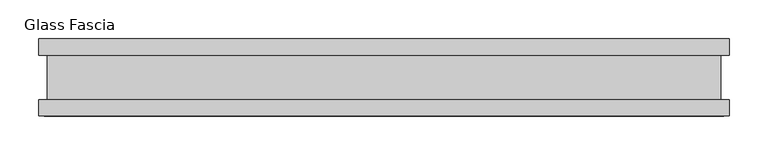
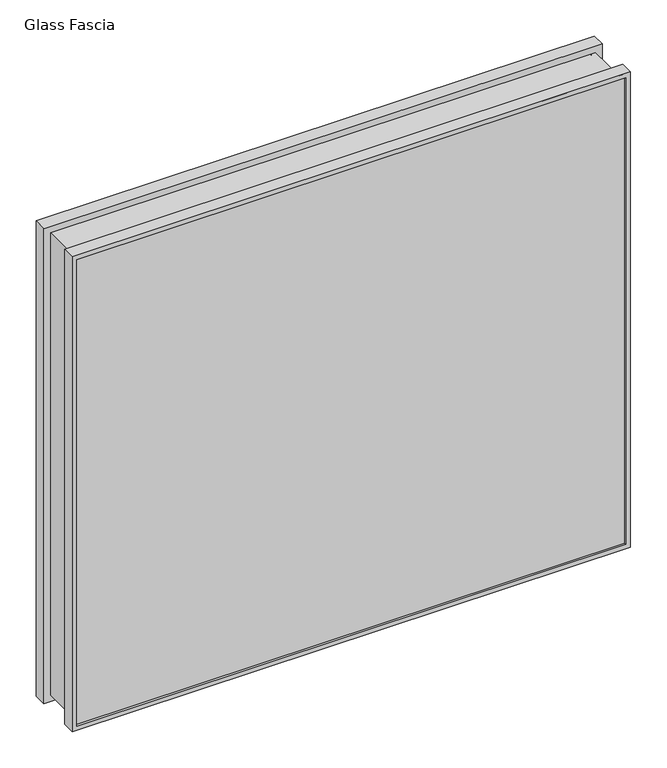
"""IFC4 building model written with IfcOpenShell, lengths in millimetres: proxy geometry, Panel-Fascia-Teknion-Altos-Glass : Glass Fascia."""

from ifc_helpers import new_model, si_unit, frame, origin, place, context, project, spatial, polyline, ellipse_curve, outline, extrude, source, transform, mapped, element, save
from ifc_brep_helpers import plane_surface, cylinder_surface, advanced_brep


def glass_fascia_d2a417b3(model_context):
    return source(origin(), model_context, "Body", "SolidModel", [
        advanced_brep(
        [(447.0670757, 50.0558594, 807.593), (447.0670757, 28.2698798, 807.593), (447.0670757, 28.2698798, 3.175), (447.0670757, 50.0558594, 3.175), (439.6318679, 47.1322551, 800.1577922), (439.6318679, 50.0558594, 800.1577922), (439.6318679, 50.0558594, 10.6102078), (439.6318679, 47.1322551, 10.6102078), (444.9145495, 41.1791301, 805.4404737), (444.9145495, 47.1322551, 805.4404737), (444.9145495, 47.1322551, 5.3275263), (444.9145495, 41.1791301, 5.3275263), (439.1096603, -40.9277344, 799.6355845), (439.1096603, 41.1791301, 799.6355845), (439.1096603, 41.1791301, 11.1324155), (439.1096603, -40.9277344, 11.1324155), (444.9145495, -46.8808594, 805.4404737), (444.9145495, -40.9277344, 805.4404737), (444.9145495, -40.9277344, 5.3275263), (444.9145495, -46.8808594, 5.3275263), (439.6318679, -50.0558594, 800.1577922), (439.6318679, -46.8808594, 800.1577922), (439.6318679, -46.8808594, 10.6102078), (439.6318679, -50.0558594, 10.6102078), (447.0670757, -28.8801202, 807.593), (447.0670757, -50.0558594, 807.593), (447.0670757, -50.0558594, 3.175), (447.0670757, -28.8801202, 3.175), (436.2152344, 28.2698798, 796.7411586), (436.2152344, -28.8801202, 796.7411586), (436.2152344, -28.8801202, 14.0268414), (436.2152344, 28.2698798, 14.0268414), (-447.0670757, 28.2698798, 3.175), (-447.0670757, 50.0558594, 3.175), (-439.6318679, 50.0558594, 10.6102078), (-439.6318679, 47.1322551, 10.6102078), (-444.9145495, 47.1322551, 5.3275263), (-444.9145495, 41.1791301, 5.3275263), (-439.1096603, 41.1791301, 11.1324155), (-439.1096603, -40.9277344, 11.1324155), (-444.9145495, -40.9277344, 5.3275263), (-444.9145495, -46.8808594, 5.3275263), (-439.6318679, -46.8808594, 10.6102078), (-439.6318679, -50.0558594, 10.6102078), (-447.0670757, -50.0558594, 3.175), (-447.0670757, -28.8801202, 3.175), (-436.2152344, -28.8801202, 14.0268414), (-436.2152344, 28.2698798, 14.0268414), (-447.0670757, 28.2698798, 807.593), (-447.0670757, 50.0558594, 807.593), (-439.6318679, 50.0558594, 800.1577922), (-439.6318679, 47.1322551, 800.1577922), (-444.9145495, 47.1322551, 805.4404737), (-444.9145495, 41.1791301, 805.4404737), (-439.1096603, 41.1791301, 799.6355845), (-439.1096603, -40.9277344, 799.6355845), (-444.9145495, -40.9277344, 805.4404737), (-444.9145495, -46.8808594, 805.4404737), (-439.6318679, -46.8808594, 800.1577922), (-439.6318679, -50.0558594, 800.1577922), (-447.0670757, -50.0558594, 807.593), (-447.0670757, -28.8801202, 807.593), (-436.2152344, -28.8801202, 796.7411586), (-436.2152344, 28.2698798, 796.7411586)],
        [
            (0, 1),
            (1, 2),
            (2, 3),
            (3, 0),
            (4, 5),
            (5, 6),
            (6, 7),
            (7, 4),
            (8, 9),
            (9, 10),
            (10, 11),
            (11, 8),
            (12, 13, ellipse_curve(frame((478.4955026, 0.1256979, 839.0214268), z_axis=(0.7071067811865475, 0.0, -0.7071067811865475), x_axis=(0.7071067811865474, 0.0, 0.7071067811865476)), 80.4565581, 56.8913778)),
            (13, 14),
            (14, 15, ellipse_curve(frame((478.4955026, 0.1256979, -28.2534268), z_axis=(0.7071067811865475, 0.0, 0.7071067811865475), x_axis=(-0.7071067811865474, 0.0, 0.7071067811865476)), 80.4565581, 56.8913778)),
            (15, 12),
            (16, 17),
            (17, 18),
            (18, 19),
            (19, 16),
            (20, 21),
            (21, 22),
            (22, 23),
            (23, 20),
            (24, 25),
            (25, 26),
            (26, 27),
            (27, 24),
            (28, 29),
            (29, 30),
            (30, 31),
            (31, 28),
            (2, 32),
            (32, 33),
            (33, 3),
            (6, 34),
            (34, 35),
            (35, 7),
            (10, 36),
            (36, 37),
            (37, 11),
            (14, 38),
            (38, 39, ellipse_curve(frame((-478.4955026, 0.1256979, -28.2534268), z_axis=(0.7071067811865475, 0.0, -0.7071067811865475), x_axis=(0.7071067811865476, 0.0, 0.7071067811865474)), 80.4565581, 56.8913778)),
            (39, 15),
            (18, 40),
            (40, 41),
            (41, 19),
            (22, 42),
            (42, 43),
            (43, 23),
            (26, 44),
            (44, 45),
            (45, 27),
            (30, 46),
            (46, 47),
            (47, 31),
            (32, 48),
            (48, 49),
            (49, 33),
            (34, 50),
            (50, 51),
            (51, 35),
            (36, 52),
            (52, 53),
            (53, 37),
            (38, 54),
            (54, 55, ellipse_curve(frame((-478.4955026, 0.1256979, 839.0214268), z_axis=(-0.7071067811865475, 0.0, -0.7071067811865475), x_axis=(0.7071067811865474, 0.0, -0.7071067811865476)), 80.4565581, 56.8913778)),
            (55, 39),
            (40, 56),
            (56, 57),
            (57, 41),
            (42, 58),
            (58, 59),
            (59, 43),
            (44, 60),
            (60, 61),
            (61, 45),
            (46, 62),
            (62, 63),
            (63, 47),
            (48, 1),
            (0, 49),
            (5, 50),
            (4, 51),
            (9, 52),
            (8, 53),
            (13, 54),
            (12, 55),
            (17, 56),
            (16, 57),
            (21, 58),
            (20, 59),
            (25, 60),
            (24, 61),
            (29, 62),
            (28, 63),
        ],
        [
            plane_surface(frame((447.0670757, 28.2698798, 807.593), z_axis=(1.0, 0.0, 0.0), x_axis=(0.0, 0.0, -1.0))),
            plane_surface(frame((439.6318679, 50.0558594, 800.1577922), z_axis=(-1.0, 0.0, 0.0), x_axis=(0.0, 0.0, -1.0))),
            plane_surface(frame((444.9145495, 47.1322551, 805.4404737), z_axis=(-1.0, 0.0, 0.0), x_axis=(0.0, 0.0, -1.0))),
            cylinder_surface(frame((478.4955026, 0.1256979, 807.593), z_axis=(0.0, 0.0, 1.0), x_axis=(1.0, 0.0, 0.0)), 56.8913778),
            plane_surface(frame((444.9145495, -40.9277344, 805.4404737), z_axis=(-1.0, 0.0, 0.0), x_axis=(0.0, 0.0, -1.0))),
            plane_surface(frame((439.6318679, -46.8808594, 800.1577922), z_axis=(-1.0, 0.0, 0.0), x_axis=(0.0, 0.0, -1.0))),
            plane_surface(frame((447.0670757, -50.0558594, 807.593), z_axis=(1.0, 0.0, 0.0), x_axis=(0.0, 0.0, -1.0))),
            plane_surface(frame((436.2152344, -28.8801202, 796.7411586), z_axis=(1.0, 0.0, 0.0), x_axis=(0.0, 0.0, -1.0))),
            plane_surface(frame((447.0670757, 28.2698798, 3.175), z_axis=(0.0, 0.0, -1.0), x_axis=(-1.0, 0.0, 0.0))),
            plane_surface(frame((439.6318679, 50.0558594, 10.6102078), z_axis=(0.0, 0.0, 1.0), x_axis=(-1.0, 0.0, 0.0))),
            plane_surface(frame((444.9145495, 47.1322551, 5.3275263), z_axis=(0.0, 0.0, 1.0), x_axis=(-1.0, 0.0, 0.0))),
            cylinder_surface(frame((447.0670757, 0.1256979, -28.2534268), z_axis=(1.0, 0.0, 0.0), x_axis=(0.0, 0.0, -1.0)), 56.8913778),
            plane_surface(frame((444.9145495, -40.9277344, 5.3275263), z_axis=(0.0, 0.0, 1.0), x_axis=(-1.0, 0.0, 0.0))),
            plane_surface(frame((439.6318679, -46.8808594, 10.6102078), z_axis=(0.0, 0.0, 1.0), x_axis=(-1.0, 0.0, 0.0))),
            plane_surface(frame((447.0670757, -50.0558594, 3.175), z_axis=(0.0, 0.0, -1.0), x_axis=(-1.0, 0.0, 0.0))),
            plane_surface(frame((436.2152344, -28.8801202, 14.0268414), z_axis=(0.0, 0.0, -1.0), x_axis=(-1.0, 0.0, 0.0))),
            plane_surface(frame((-447.0670757, 28.2698798, 3.175), z_axis=(-1.0, 0.0, 0.0), x_axis=(0.0, 0.0, 1.0))),
            plane_surface(frame((-439.6318679, 50.0558594, 10.6102078), z_axis=(1.0, 0.0, 0.0), x_axis=(0.0, 0.0, 1.0))),
            plane_surface(frame((-444.9145495, 47.1322551, 5.3275263), z_axis=(1.0, 0.0, 0.0), x_axis=(0.0, 0.0, 1.0))),
            cylinder_surface(frame((-478.4955026, 0.1256979, 3.175), z_axis=(0.0, 0.0, -1.0), x_axis=(-1.0, 0.0, 0.0)), 56.8913778),
            plane_surface(frame((-444.9145495, -40.9277344, 5.3275263), z_axis=(1.0, 0.0, 0.0), x_axis=(0.0, 0.0, 1.0))),
            plane_surface(frame((-439.6318679, -46.8808594, 10.6102078), z_axis=(1.0, 0.0, 0.0), x_axis=(0.0, 0.0, 1.0))),
            plane_surface(frame((-447.0670757, -50.0558594, 3.175), z_axis=(-1.0, 0.0, 0.0), x_axis=(0.0, 0.0, 1.0))),
            plane_surface(frame((-436.2152344, -28.8801202, 14.0268414), z_axis=(-1.0, 0.0, 0.0), x_axis=(0.0, 0.0, 1.0))),
            plane_surface(frame((-447.0670757, 28.2698798, 807.593), z_axis=(0.0, 0.0, 1.0), x_axis=(1.0, 0.0, 0.0))),
            plane_surface(frame((-447.0670757, 50.0558594, 807.593), z_axis=(0.0, 1.0, 0.0), x_axis=(1.0, 0.0, 0.0))),
            plane_surface(frame((-439.6318679, 50.0558594, 800.1577922), z_axis=(0.0, 0.0, -1.0), x_axis=(1.0, 0.0, 0.0))),
            plane_surface(frame((-439.6318679, 47.1322551, 800.1577922), z_axis=(0.0, -1.0, 0.0), x_axis=(1.0, 0.0, 0.0))),
            plane_surface(frame((-444.9145495, 47.1322551, 805.4404737), z_axis=(0.0, 0.0, -1.0), x_axis=(1.0, 0.0, 0.0))),
            plane_surface(frame((-444.9145495, 41.1791301, 805.4404737), z_axis=(0.0, 1.0, 0.0), x_axis=(1.0, 0.0, 0.0))),
            cylinder_surface(frame((-447.0670757, 0.1256979, 839.0214268), z_axis=(-1.0, 0.0, 0.0), x_axis=(0.0, 0.0, 1.0)), 56.8913778),
            plane_surface(frame((-439.1096603, -40.9277344, 799.6355845), z_axis=(0.0, -1.0, 0.0), x_axis=(1.0, 0.0, 0.0))),
            plane_surface(frame((-444.9145495, -40.9277344, 805.4404737), z_axis=(0.0, 0.0, -1.0), x_axis=(1.0, 0.0, 0.0))),
            plane_surface(frame((-444.9145495, -46.8808594, 805.4404737), z_axis=(0.0, 1.0, 0.0), x_axis=(1.0, 0.0, 0.0))),
            plane_surface(frame((-439.6318679, -46.8808594, 800.1577922), z_axis=(0.0, 0.0, -1.0), x_axis=(1.0, 0.0, 0.0))),
            plane_surface(frame((-439.6318679, -50.0558594, 800.1577922), z_axis=(0.0, -1.0, 0.0), x_axis=(1.0, 0.0, 0.0))),
            plane_surface(frame((-447.0670757, -50.0558594, 807.593), z_axis=(0.0, 0.0, 1.0), x_axis=(1.0, 0.0, 0.0))),
            plane_surface(frame((-447.0670757, -28.8801202, 807.593), z_axis=(0.0, 1.0, 0.0), x_axis=(1.0, 0.0, 0.0))),
            plane_surface(frame((-436.2152344, -28.8801202, 796.7411586), z_axis=(0.0, 0.0, 1.0), x_axis=(1.0, 0.0, 0.0))),
            plane_surface(frame((-436.2152344, 28.2698798, 796.7411586), z_axis=(0.0, -1.0, 0.0), x_axis=(1.0, 0.0, 0.0))),
        ],
        [
            (0, [[1, 2, 3, 4]]),
            (1, [[5, 6, 7, 8]]),
            (2, [[9, 10, 11, 12]]),
            (3, [[13, 14, 15, 16]]),
            (4, [[17, 18, 19, 20]]),
            (5, [[21, 22, 23, 24]]),
            (6, [[25, 26, 27, 28]]),
            (7, [[29, 30, 31, 32]]),
            (8, [[-3, 33, 34, 35]]),
            (9, [[-7, 36, 37, 38]]),
            (10, [[-11, 39, 40, 41]]),
            (11, [[-15, 42, 43, 44]]),
            (12, [[-19, 45, 46, 47]]),
            (13, [[-23, 48, 49, 50]]),
            (14, [[-27, 51, 52, 53]]),
            (15, [[-31, 54, 55, 56]]),
            (16, [[-34, 57, 58, 59]]),
            (17, [[-37, 60, 61, 62]]),
            (18, [[-40, 63, 64, 65]]),
            (19, [[-43, 66, 67, 68]]),
            (20, [[-46, 69, 70, 71]]),
            (21, [[-49, 72, 73, 74]]),
            (22, [[-52, 75, 76, 77]]),
            (23, [[-55, 78, 79, 80]]),
            (24, [[-58, 81, -1, 82]]),
            (25, [[-35, -59, -82, -4], [83, -60, -36, -6]]),
            (26, [[-61, -83, -5, 84]]),
            (27, [[85, -63, -39, -10], [-38, -62, -84, -8]]),
            (28, [[-64, -85, -9, 86]]),
            (29, [[-41, -65, -86, -12], [87, -66, -42, -14]]),
            (30, [[-67, -87, -13, 88]]),
            (31, [[89, -69, -45, -18], [-44, -68, -88, -16]]),
            (32, [[-70, -89, -17, 90]]),
            (33, [[-47, -71, -90, -20], [91, -72, -48, -22]]),
            (34, [[-73, -91, -21, 92]]),
            (35, [[93, -75, -51, -26], [-50, -74, -92, -24]]),
            (36, [[-76, -93, -25, 94]]),
            (37, [[-53, -77, -94, -28], [95, -78, -54, -30]]),
            (38, [[-79, -95, -29, 96]]),
            (39, [[-81, -57, -33, -2], [-56, -80, -96, -32]]),
        ],
    ),
        extrude(outline(polyline([(444.9145495, -40.9277344), (444.9145495, -46.8808594), (-444.9145495, -46.8808594), (-444.9145495, -40.9277344), (444.9145495, -40.9277344)])), frame((0.0, 0.0, 5.3275263), z_axis=(0.0, 0.0, 1.0), x_axis=(1.0, 0.0, 0.0)), (0.0, 0.0, 1.0), 799.618928),
        extrude(outline(polyline([(444.9145495, 41.1791301), (-444.9145495, 41.1791301), (-444.9145495, 47.1322551), (444.9145495, 47.1322551), (444.9145495, 41.1791301)])), frame((0.0, 0.0, 5.3275263), z_axis=(0.0, 0.0, 1.0), x_axis=(1.0, 0.0, 0.0)), (0.0, 0.0, 1.0), 799.618928),
    ])


if __name__ == "__main__":
    model = new_model("IFC4")
    model_context = context("Model", 3, world=origin())
    ifc_project = project(units=[si_unit("LENGTHUNIT", "METRE", prefix="MILLI")], contexts=[model_context])
    site = spatial("IfcSite", under=ifc_project)
    building = spatial("IfcBuilding", under=site)
    placement = place(None, origin())
    glass_fascia_shape = glass_fascia_d2a417b3(model_context)
    element("IfcBuildingElementProxy", 1, Name="Panel-Fascia-Teknion-Altos-Glass : Glass Fascia", ObjectType="Panel-Fascia-Teknion-Altos-Glass : Glass Fascia", at=placement, inside=building, context=model_context, shape_type="MappedRepresentation", body=[
        mapped(glass_fascia_shape, transform((0.0, 0.0, 0.0), x_axis=(1.0, 0.0, 0.0), y_axis=(0.0, 1.0, 0.0), z_axis=(0.0, 0.0, 1.0))),
    ])
    save(model, "model.ifc")
